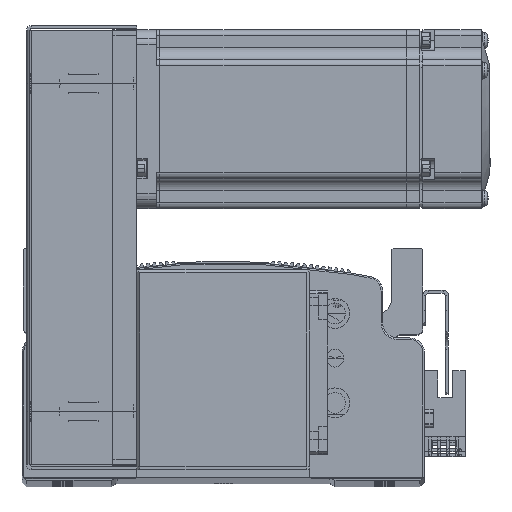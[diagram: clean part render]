
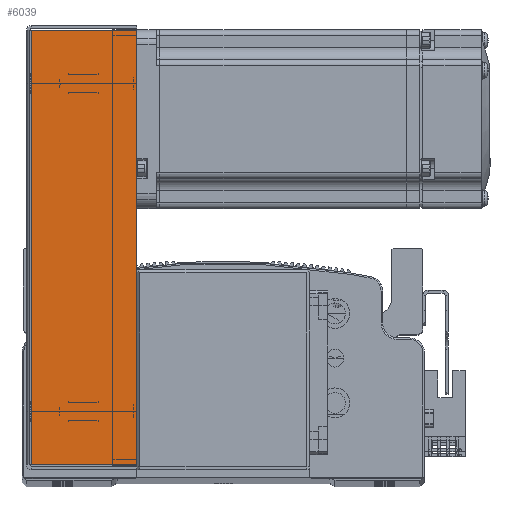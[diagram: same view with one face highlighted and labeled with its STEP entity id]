
A CAD part, top view. The second image highlights one B-rep face of the part: STEP entity #6039.
In plain terms, the highlighted planar face has unit normal (0, 0, 1).
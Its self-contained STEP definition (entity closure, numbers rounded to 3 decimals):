
#6039 = ADVANCED_FACE ( 'NONE', ( #16321 ), #69528, .F. ) ;
#16321 = FACE_OUTER_BOUND ( 'NONE', #21293, .T. ) ;
#21293 = EDGE_LOOP ( 'NONE', ( #38770, #38769, #38803, #38786 ) ) ;
#38769 = ORIENTED_EDGE ( 'NONE', *, *, #80650, .T. ) ;
#38770 = ORIENTED_EDGE ( 'NONE', *, *, #80534, .F. ) ;
#38786 = ORIENTED_EDGE ( 'NONE', *, *, #80640, .F. ) ;
#38803 = ORIENTED_EDGE ( 'NONE', *, *, #80555, .T. ) ;
#41055 = CARTESIAN_POINT ( 'NONE',  ( 72.793, 0.737, 34.5 ) ) ;
#41209 = CARTESIAN_POINT ( 'NONE',  ( 72.793, 36., 34.5 ) ) ;
#41237 = CARTESIAN_POINT ( 'NONE',  ( -72.793, 0.737, 34.5 ) ) ;
#41265 = CARTESIAN_POINT ( 'NONE',  ( -72.793, 36., 34.5 ) ) ;
#49096 = CARTESIAN_POINT ( 'NONE',  ( -72.793, 0., 34.5 ) ) ;
#49111 = DIRECTION ( 'NONE',  ( 0., 1., 0. ) ) ;
#49252 = CARTESIAN_POINT ( 'NONE',  ( 72.793, 0., 34.5 ) ) ;
#49324 = DIRECTION ( 'NONE',  ( 0., 1., 0. ) ) ;
#55971 = AXIS2_PLACEMENT_3D ( 'NONE', #69598, #69569, #69600 ) ;
#56838 = CARTESIAN_POINT ( 'NONE',  ( -74.5, 0.737, 34.5 ) ) ;
#56853 = DIRECTION ( 'NONE',  ( -1., 0., 0. ) ) ;
#56881 = DIRECTION ( 'NONE',  ( -1., 0., 0. ) ) ;
#56885 = CARTESIAN_POINT ( 'NONE',  ( 0., 36., 34.5 ) ) ;
#57328 = LINE ( 'NONE', #49096, #57397 ) ;
#57397 = VECTOR ( 'NONE', #49111, 1000. ) ;
#57799 = VECTOR ( 'NONE', #49324, 1000. ) ;
#58977 = VECTOR ( 'NONE', #56853, 1000. ) ;
#58999 = LINE ( 'NONE', #56838, #58977 ) ;
#59064 = VECTOR ( 'NONE', #56881, 1000. ) ;
#59073 = LINE ( 'NONE', #56885, #59064 ) ;
#59159 = LINE ( 'NONE', #49252, #57799 ) ;
#69528 = PLANE ( 'NONE',  #55971 ) ;
#69569 = DIRECTION ( 'NONE',  ( 0., 0., -1. ) ) ;
#69598 = CARTESIAN_POINT ( 'NONE',  ( 0., 0., 34.5 ) ) ;
#69600 = DIRECTION ( 'NONE',  ( -1., 0., 0. ) ) ;
#80534 = EDGE_CURVE ( 'NONE', #81793, #81942, #58999, .T. ) ;
#80555 = EDGE_CURVE ( 'NONE', #81904, #81894, #59073, .T. ) ;
#80640 = EDGE_CURVE ( 'NONE', #81942, #81894, #57328, .T. ) ;
#80650 = EDGE_CURVE ( 'NONE', #81793, #81904, #59159, .T. ) ;
#81793 = VERTEX_POINT ( 'NONE', #41055 ) ;
#81894 = VERTEX_POINT ( 'NONE', #41265 ) ;
#81904 = VERTEX_POINT ( 'NONE', #41209 ) ;
#81942 = VERTEX_POINT ( 'NONE', #41237 ) ;
